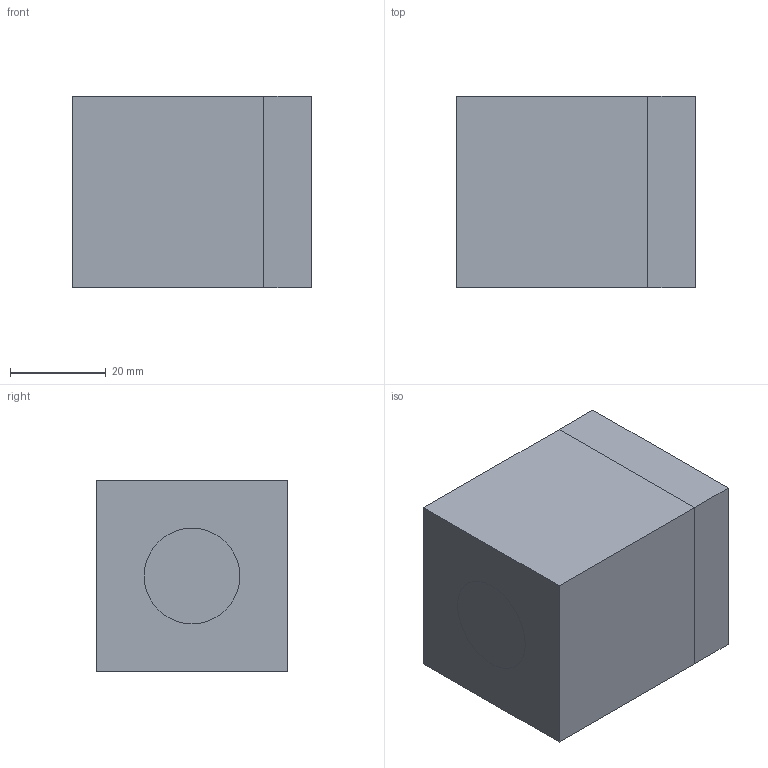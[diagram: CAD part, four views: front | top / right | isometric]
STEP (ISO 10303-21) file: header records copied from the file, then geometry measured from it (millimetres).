
FILE_DESCRIPTION(/* description */ (''),/* implementation_level */ '2;1');
FILE_NAME(/* name */ 'E:\OneDrive\Desktop\N5_GC_Sections\Task 2\ASSY_Task_2.stp',/* time_stamp */ '2020-06-08T12:26:29+01:00',/* author */ ('hunte'),/* organization */ (''),/* preprocessor_version */ 'ST-DEVELOPER v18.1',/* originating_system */ 'Autodesk Inventor 2020',/* authorisation */ '');
FILE_SCHEMA (('AUTOMOTIVE_DESIGN { 1 0 10303 214 3 1 1 }'));
Length unit declared in the file: millimetre
Products named in the file (3): ASSY_Task_2; PRT_A; PRT_B
Assembly tree (2 placements, depth 2):
  ASSY_Task_2
    PRT_A
    PRT_B
Bounding box: 50 x 40 x 40 mm (x, y, z)
Volume: 80000 mm3; surface area: 18798.2 mm2
Topology: 2 solids, 2 shells, 15 faces, 32 edges, 22 vertices
Faces by surface type: plane 13, cylinder 2
Full cylindrical faces by diameter (mm): 20 x2
Entity records: 517 total; most frequent: DIRECTION 78, CARTESIAN_POINT 74, ORIENTED_EDGE 64, EDGE_CURVE 32, LINE 26, VECTOR 26, AXIS2_PLACEMENT_3D 26, VERTEX_POINT 22
